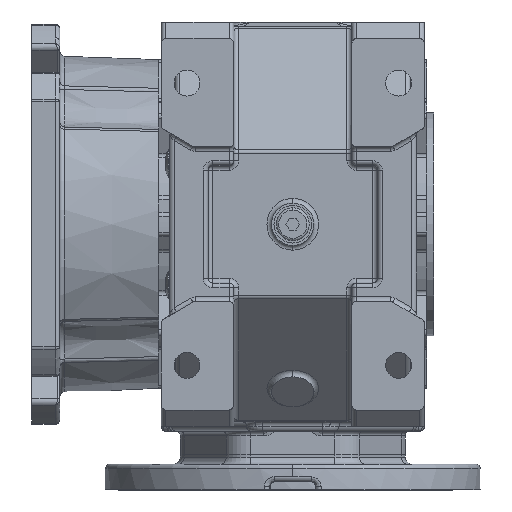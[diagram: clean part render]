
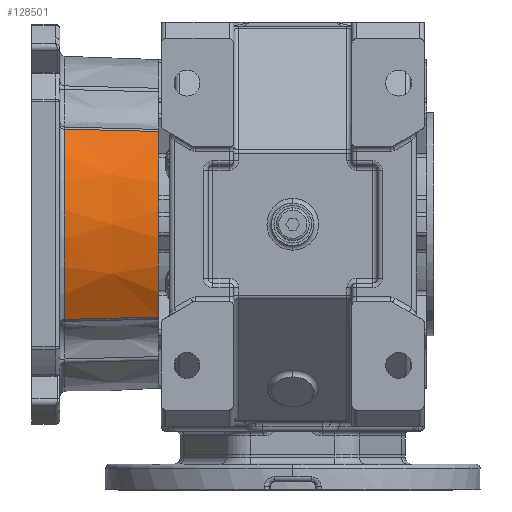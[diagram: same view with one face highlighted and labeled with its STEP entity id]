
A CAD part, front view. The second image highlights one B-rep face of the part: STEP entity #128501.
In plain terms, the highlighted conical face has half-angle 2 degrees and reference radius 71.467 mm.
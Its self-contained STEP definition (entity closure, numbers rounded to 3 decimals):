
#20470 = FACE_OUTER_BOUND ( 'NONE', #128504, .T. ) ;
#20494 = CARTESIAN_POINT ( 'NONE',  ( 39.461, -57.817, 0. ) ) ;
#20495 = CARTESIAN_POINT ( 'NONE',  ( 39.792, -58.156, -13.357 ) ) ;
#20496 = CARTESIAN_POINT ( 'NONE',  ( 40.123, -58.494, -26.713 ) ) ;
#20497 = CARTESIAN_POINT ( 'NONE',  ( 40.454, -58.833, -40.07 ) ) ;
#20499 = B_SPLINE_CURVE_WITH_KNOTS ( 'NONE', 3,
 ( #20497, #20496, #20495, #20494 ),
 .UNSPECIFIED., .F., .F.,
 ( 4, 4 ),
 ( 0., 0.04 ),
 .UNSPECIFIED. ) ;
#20501 = CARTESIAN_POINT ( 'NONE',  ( 40.454, -58.833, -40.07 ) ) ;
#20502 = CARTESIAN_POINT ( 'NONE',  ( -40.454, -58.833, -40.07 ) ) ;
#20503 = DIRECTION ( 'NONE',  ( -1., 0., 0. ) ) ;
#20504 = DIRECTION ( 'NONE',  ( 0., 0., 1. ) ) ;
#20505 = AXIS2_PLACEMENT_3D ( 'NONE', #20511, #20504, #20503 ) ;
#20506 = CIRCLE ( 'NONE', #20505, 71.399 ) ;
#20507 = DIRECTION ( 'NONE',  ( -1., 0., 0. ) ) ;
#20508 = DIRECTION ( 'NONE',  ( 0., 0., -1. ) ) ;
#20509 = AXIS2_PLACEMENT_3D ( 'NONE', #20512, #20508, #20507 ) ;
#20510 = CONICAL_SURFACE ( 'NONE', #20509, 71.467, 0.035 ) ;
#20511 = CARTESIAN_POINT ( 'NONE',  ( 0., 0., -40.07 ) ) ;
#20512 = CARTESIAN_POINT ( 'NONE',  ( 0., 0., -42. ) ) ;
#20655 = CARTESIAN_POINT ( 'NONE',  ( -40.454, -58.833, -40.07 ) ) ;
#20656 = CARTESIAN_POINT ( 'NONE',  ( -40.123, -58.494, -26.713 ) ) ;
#20657 = CARTESIAN_POINT ( 'NONE',  ( -39.792, -58.156, -13.357 ) ) ;
#20658 = CARTESIAN_POINT ( 'NONE',  ( -39.461, -57.817, 0. ) ) ;
#20659 = B_SPLINE_CURVE_WITH_KNOTS ( 'NONE', 3,
 ( #20658, #20657, #20656, #20655 ),
 .UNSPECIFIED., .F., .F.,
 ( 4, 4 ),
 ( 0., 0.04 ),
 .UNSPECIFIED. ) ;
#20661 = CARTESIAN_POINT ( 'NONE',  ( -39.461, -57.817, 0. ) ) ;
#20662 = DIRECTION ( 'NONE',  ( 1., 0., 0. ) ) ;
#20663 = DIRECTION ( 'NONE',  ( 0., 0., 1. ) ) ;
#20664 = CARTESIAN_POINT ( 'NONE',  ( 0., 0., 0. ) ) ;
#20665 = AXIS2_PLACEMENT_3D ( 'NONE', #20664, #20663, #20662 ) ;
#20666 = CIRCLE ( 'NONE', #20665, 70. ) ;
#20667 = CARTESIAN_POINT ( 'NONE',  ( 39.461, -57.817, 0. ) ) ;
#128501 = ADVANCED_FACE ( 'NONE', ( #20470 ), #20510, .T. ) ;
#128504 = EDGE_LOOP ( 'NONE', ( #128507, #128512, #128607, #128614 ) ) ;
#128507 = ORIENTED_EDGE ( 'NONE', *, *, #128509, .T. ) ;
#128509 = EDGE_CURVE ( 'NONE', #128510, #128511, #20506, .T. ) ;
#128510 = VERTEX_POINT ( 'NONE', #20502 ) ;
#128511 = VERTEX_POINT ( 'NONE', #20501 ) ;
#128512 = ORIENTED_EDGE ( 'NONE', *, *, #128514, .T. ) ;
#128514 = EDGE_CURVE ( 'NONE', #128511, #128606, #20499, .T. ) ;
#128606 = VERTEX_POINT ( 'NONE', #20667 ) ;
#128607 = ORIENTED_EDGE ( 'NONE', *, *, #128609, .F. ) ;
#128609 = EDGE_CURVE ( 'NONE', #128611, #128606, #20666, .T. ) ;
#128611 = VERTEX_POINT ( 'NONE', #20661 ) ;
#128614 = ORIENTED_EDGE ( 'NONE', *, *, #128615, .T. ) ;
#128615 = EDGE_CURVE ( 'NONE', #128611, #128510, #20659, .T. ) ;
